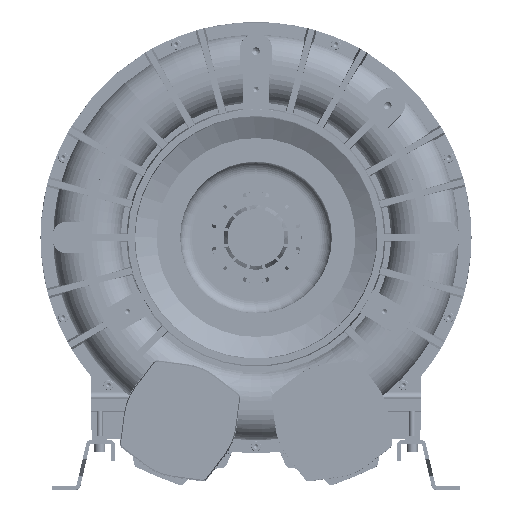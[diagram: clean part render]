
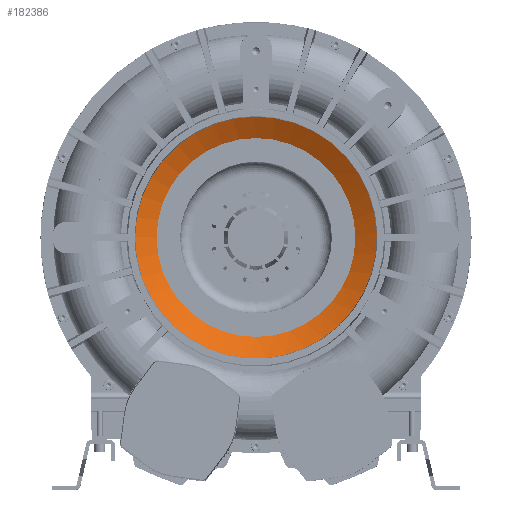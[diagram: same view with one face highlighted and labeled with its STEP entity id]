
A CAD part, top view. The second image highlights one B-rep face of the part: STEP entity #182386.
In plain terms, the highlighted conical face has half-angle 62 degrees and reference radius 131.023 mm.
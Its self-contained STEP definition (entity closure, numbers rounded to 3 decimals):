
#13665 = DIRECTION ( 'NONE',  ( 0., 0., 1. ) ) ;
#24910 = ORIENTED_EDGE ( 'NONE', *, *, #201251, .F. ) ;
#26778 = DIRECTION ( 'NONE',  ( 0., 0., 1. ) ) ;
#30437 = AXIS2_PLACEMENT_3D ( 'NONE', #224477, #13665, #53240 ) ;
#39697 = AXIS2_PLACEMENT_3D ( 'NONE', #52259, #205016, #183832 ) ;
#52259 = CARTESIAN_POINT ( 'NONE',  ( 0., 0., 305.491 ) ) ;
#53240 = DIRECTION ( 'NONE',  ( 1., 0., 0. ) ) ;
#73370 = DIRECTION ( 'NONE',  ( -1., 0., 0. ) ) ;
#84314 = CIRCLE ( 'NONE', #265129, 131.023 ) ;
#107384 = EDGE_LOOP ( 'NONE', ( #24910 ) ) ;
#181705 = EDGE_CURVE ( 'NONE', #186221, #186221, #84314, .T. ) ;
#182011 = FACE_OUTER_BOUND ( 'NONE', #107384, .T. ) ;
#182386 = ADVANCED_FACE ( 'NONE', ( #182011, #207405 ), #265309, .F. ) ;
#183832 = DIRECTION ( 'NONE',  ( -1., 0., 0. ) ) ;
#186221 = VERTEX_POINT ( 'NONE', #254134 ) ;
#194544 = VERTEX_POINT ( 'NONE', #212994 ) ;
#201251 = EDGE_CURVE ( 'NONE', #194544, #194544, #274690, .T. ) ;
#205016 = DIRECTION ( 'NONE',  ( 0., 0., -1. ) ) ;
#207405 = FACE_BOUND ( 'NONE', #224407, .T. ) ;
#212994 = CARTESIAN_POINT ( 'NONE',  ( -159.217, 0., 305.491 ) ) ;
#221968 = CARTESIAN_POINT ( 'NONE',  ( 0., 0., 290.5 ) ) ;
#224407 = EDGE_LOOP ( 'NONE', ( #224667 ) ) ;
#224477 = CARTESIAN_POINT ( 'NONE',  ( 0., 0., 290.5 ) ) ;
#224667 = ORIENTED_EDGE ( 'NONE', *, *, #181705, .F. ) ;
#254134 = CARTESIAN_POINT ( 'NONE',  ( -131.023, 0., 290.5 ) ) ;
#265129 = AXIS2_PLACEMENT_3D ( 'NONE', #221968, #26778, #73370 ) ;
#265309 = CONICAL_SURFACE ( 'NONE', #30437, 131.023, 1.082 ) ;
#274690 = CIRCLE ( 'NONE', #39697, 159.217 ) ;
